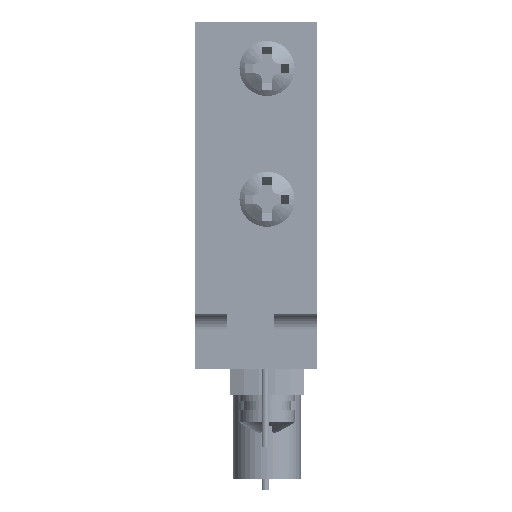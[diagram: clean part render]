
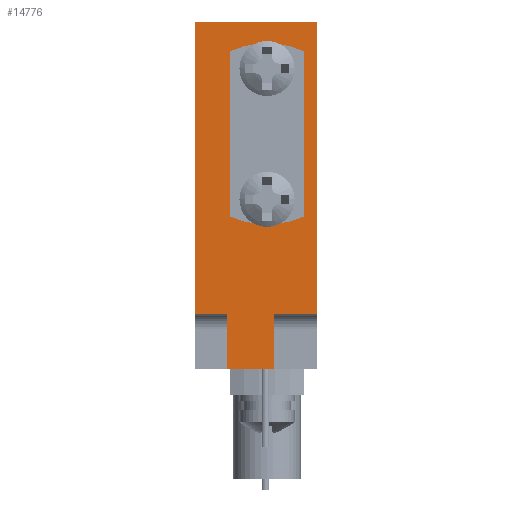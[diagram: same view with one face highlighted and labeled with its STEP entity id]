
A CAD part, left-side view. The second image highlights one B-rep face of the part: STEP entity #14776.
In plain terms, the highlighted planar face has unit normal (-1, 0, 0).
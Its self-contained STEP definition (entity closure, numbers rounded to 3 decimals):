
#125 = EDGE_CURVE ( 'NONE', #7506, #10020, #15222, .T. ) ;
#473 = VECTOR ( 'NONE', #5983, 1000. ) ;
#548 = LINE ( 'NONE', #14448, #20916 ) ;
#652 = VECTOR ( 'NONE', #20845, 1000. ) ;
#1017 = CARTESIAN_POINT ( 'NONE',  ( 0., 2.7, -22. ) ) ;
#1864 = CARTESIAN_POINT ( 'NONE',  ( 0., 5.7, -18.5 ) ) ;
#2549 = CARTESIAN_POINT ( 'NONE',  ( 0., 5.7, -18.5 ) ) ;
#2962 = EDGE_CURVE ( 'NONE', #7124, #12913, #15405, .T. ) ;
#3075 = LINE ( 'NONE', #8496, #23165 ) ;
#3091 = EDGE_CURVE ( 'NONE', #8624, #10020, #5714, .T. ) ;
#3148 = ORIENTED_EDGE ( 'NONE', *, *, #3091, .F. ) ;
#3348 = CARTESIAN_POINT ( 'NONE',  ( 0., 2.7, -18.5 ) ) ;
#3621 = LINE ( 'NONE', #2549, #17949 ) ;
#3830 = EDGE_LOOP ( 'NONE', ( #17393, #14086, #16327, #12634, #14361, #8752, #11593, #3148 ) ) ;
#4048 = VERTEX_POINT ( 'NONE', #8530 ) ;
#4756 = DIRECTION ( 'NONE',  ( 0., -1., 0. ) ) ;
#4952 = DIRECTION ( 'NONE',  ( 0., 0., -1. ) ) ;
#5187 = EDGE_CURVE ( 'NONE', #22991, #4048, #3621, .T. ) ;
#5384 = CARTESIAN_POINT ( 'NONE',  ( 0., 2.7, 0. ) ) ;
#5714 = LINE ( 'NONE', #5384, #12861 ) ;
#5932 = VECTOR ( 'NONE', #14291, 1000. ) ;
#5983 = DIRECTION ( 'NONE',  ( 0., -1., 0. ) ) ;
#7124 = VERTEX_POINT ( 'NONE', #14609 ) ;
#7506 = VERTEX_POINT ( 'NONE', #13996 ) ;
#8239 = PLANE ( 'NONE',  #16384 ) ;
#8496 = CARTESIAN_POINT ( 'NONE',  ( 0., 5.7, 0. ) ) ;
#8530 = CARTESIAN_POINT ( 'NONE',  ( 0., 7.7, -18.5 ) ) ;
#8624 = VERTEX_POINT ( 'NONE', #3348 ) ;
#8752 = ORIENTED_EDGE ( 'NONE', *, *, #9128, .F. ) ;
#9128 = EDGE_CURVE ( 'NONE', #7506, #22991, #3075, .T. ) ;
#9153 = CARTESIAN_POINT ( 'NONE',  ( 0., 0., 0. ) ) ;
#9334 = CARTESIAN_POINT ( 'NONE',  ( 0., 7.7, 0. ) ) ;
#10020 = VERTEX_POINT ( 'NONE', #1017 ) ;
#10049 = EDGE_CURVE ( 'NONE', #8624, #17248, #22490, .T. ) ;
#10142 = FACE_OUTER_BOUND ( 'NONE', #3830, .T. ) ;
#10935 = DIRECTION ( 'NONE',  ( 0., 0., 1. ) ) ;
#11593 = ORIENTED_EDGE ( 'NONE', *, *, #125, .T. ) ;
#11651 = DIRECTION ( 'NONE',  ( 0., 1., 0. ) ) ;
#12634 = ORIENTED_EDGE ( 'NONE', *, *, #20196, .F. ) ;
#12861 = VECTOR ( 'NONE', #16539, 1000. ) ;
#12913 = VERTEX_POINT ( 'NONE', #9153 ) ;
#13627 = CARTESIAN_POINT ( 'NONE',  ( 0., 7.7, 0. ) ) ;
#13890 = CARTESIAN_POINT ( 'NONE',  ( 0., 7.7, 0. ) ) ;
#13996 = CARTESIAN_POINT ( 'NONE',  ( 0., 5.7, -22. ) ) ;
#14086 = ORIENTED_EDGE ( 'NONE', *, *, #19512, .T. ) ;
#14291 = DIRECTION ( 'NONE',  ( 0., 0., 1. ) ) ;
#14361 = ORIENTED_EDGE ( 'NONE', *, *, #5187, .F. ) ;
#14394 = CARTESIAN_POINT ( 'NONE',  ( 0., 0., -18.5 ) ) ;
#14448 = CARTESIAN_POINT ( 'NONE',  ( 0., 0., 0. ) ) ;
#14609 = CARTESIAN_POINT ( 'NONE',  ( 0., 7.7, 0. ) ) ;
#14624 = LINE ( 'NONE', #9334, #5932 ) ;
#14776 = ADVANCED_FACE ( 'NONE', ( #10142 ), #8239, .F. ) ;
#15222 = LINE ( 'NONE', #20253, #22491 ) ;
#15405 = LINE ( 'NONE', #13627, #473 ) ;
#16327 = ORIENTED_EDGE ( 'NONE', *, *, #2962, .F. ) ;
#16384 = AXIS2_PLACEMENT_3D ( 'NONE', #13890, #17295, #4952 ) ;
#16539 = DIRECTION ( 'NONE',  ( 0., 0., -1. ) ) ;
#17248 = VERTEX_POINT ( 'NONE', #14394 ) ;
#17295 = DIRECTION ( 'NONE',  ( 1., 0., 0. ) ) ;
#17393 = ORIENTED_EDGE ( 'NONE', *, *, #10049, .T. ) ;
#17949 = VECTOR ( 'NONE', #11651, 1000. ) ;
#19512 = EDGE_CURVE ( 'NONE', #17248, #12913, #548, .T. ) ;
#20196 = EDGE_CURVE ( 'NONE', #4048, #7124, #14624, .T. ) ;
#20253 = CARTESIAN_POINT ( 'NONE',  ( 0., 7.7, -22. ) ) ;
#20845 = DIRECTION ( 'NONE',  ( 0., -1., 0. ) ) ;
#20916 = VECTOR ( 'NONE', #10935, 1000. ) ;
#22490 = LINE ( 'NONE', #22605, #652 ) ;
#22491 = VECTOR ( 'NONE', #4756, 1000. ) ;
#22605 = CARTESIAN_POINT ( 'NONE',  ( 0., 2.7, -18.5 ) ) ;
#22991 = VERTEX_POINT ( 'NONE', #1864 ) ;
#23165 = VECTOR ( 'NONE', #23167, 1000. ) ;
#23167 = DIRECTION ( 'NONE',  ( 0., 0., 1. ) ) ;
